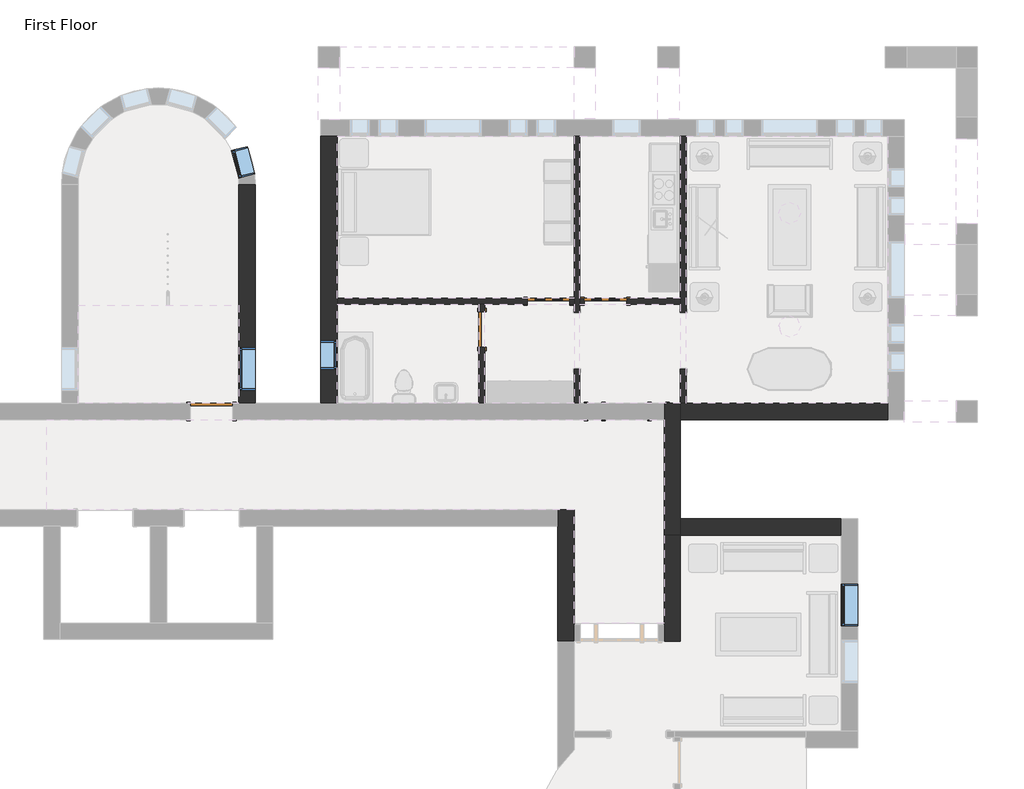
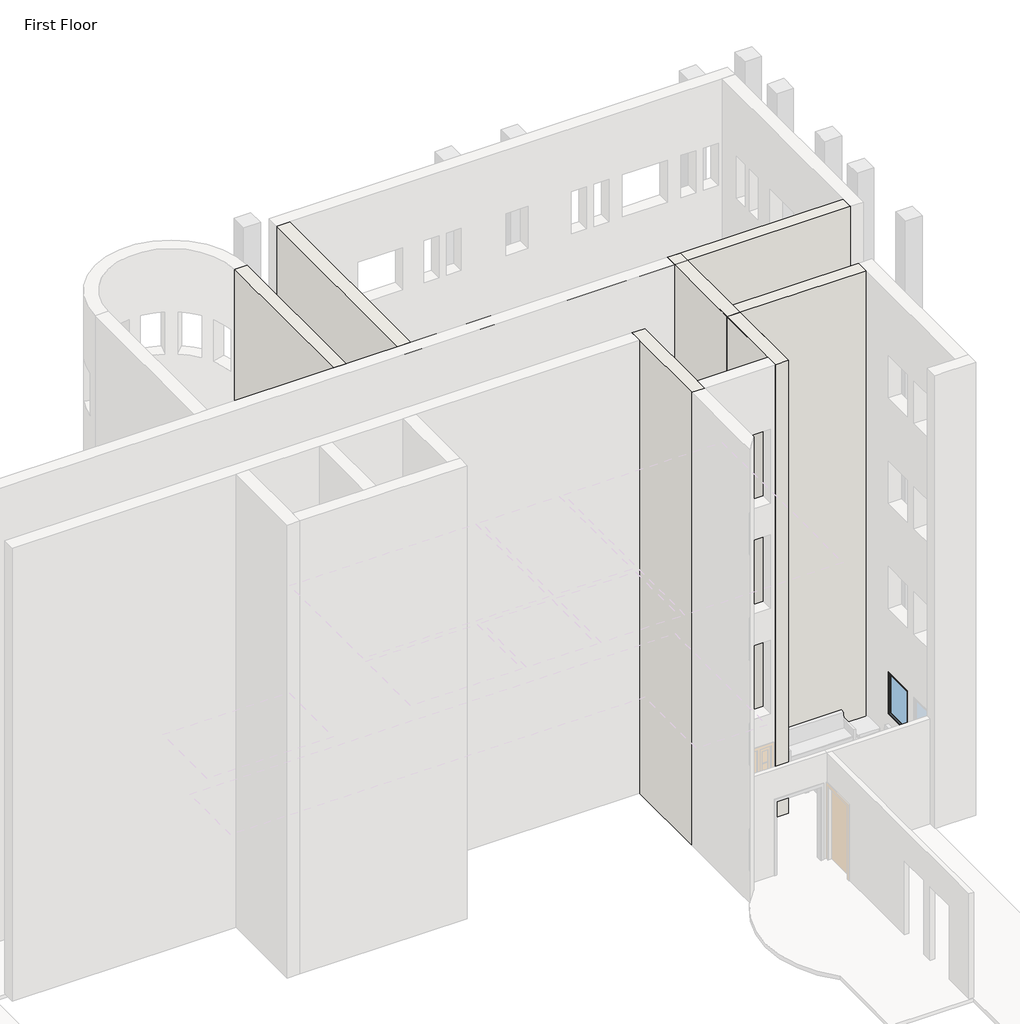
# One storey, part 14 of 21: 12 walls, 5 doors, 4 windows.
"""IFC4 building model written with IfcOpenShell, lengths in millimetres."""

from ifc_helpers import new_model, si_unit, frame, origin, place, context, project, spatial, polyline, outline, extrude, faceted_brep, transform, mapped, element, save
from components import door_829da954, door_2e3b4da2, door_4d6c7550, door_632be17d, door_dba5aa2e, window_60baf983, window_15c49d37, window_0e2fc6ce

model = new_model("IFC4")

# Units and contexts
model_context = context("Model", 3, world=origin())
ifc_project = project(units=[si_unit("LENGTHUNIT", "METRE", prefix="MILLI")], contexts=[model_context])

# Site, building, storey
site = spatial("IfcSite", under=ifc_project)
building = spatial("IfcBuilding", under=site)
storey = spatial("IfcBuildingStorey", under=building, Name="First Floor", Elevation=0.0)

# Doors
placement = place(None, origin())
door_shape = door_829da954(model_context)
element("IfcDoor", 1, ObjectType="Single-Decorative 2 : 36\" x 84\"", at=placement, inside=storey, context=model_context, shape_type="MappedRepresentation", body=[
    mapped(door_shape, transform((-5449.8589563, 6723.5441867, 0.0), x_axis=(-1.0, 0.0, 0.0), y_axis=(0.0, -1.0, 0.0), z_axis=(0.0, 0.0, 1.0))),
])
door_2_shape = door_2e3b4da2(model_context)
element("IfcDoor", 2, ObjectType="Single-Decorative 2 : 36\" x 84\"", at=placement, inside=storey, context=model_context, shape_type="MappedRepresentation", body=[
    mapped(door_2_shape, transform((-6669.0589563, 6723.5441867, 0.0), x_axis=(1.0, 0.0, 0.0), y_axis=(0.0, 1.0, 0.0), z_axis=(0.0, 0.0, 1.0))),
])
door_3_shape = door_4d6c7550(model_context)
element("IfcDoor", 3, ObjectType="Single-Flush : 30\" x 84\"", at=placement, inside=storey, context=model_context, shape_type="MappedRepresentation", body=[
    mapped(door_3_shape, transform((-8105.7464563, 6113.9441867, 0.0), x_axis=(0.0, 1.0, 0.0), y_axis=(-1.0, 0.0, 0.0), z_axis=(0.0, 0.0, 1.0))),
])
door_4_shape = door_632be17d(model_context)
element("IfcDoor", 4, ObjectType="Single-Flush : 36\" x 84\"", at=placement, inside=storey, context=model_context, shape_type="MappedRepresentation", body=[
    mapped(door_4_shape, transform((-13919.1714563, 4350.2316867, 0.0), x_axis=(1.0, 0.0, 0.0), y_axis=(0.0, 1.0, 0.0), z_axis=(0.0, 0.0, 1.0))),
])
door_5_shape = door_dba5aa2e(model_context)
element("IfcDoor", 5, ObjectType="Single-Raised Panel with Sidelights : 36\" x 84\"", at=placement, inside=storey, context=model_context, shape_type="MappedRepresentation", body=[
    mapped(door_5_shape, transform((-4992.6589563, 4350.2316867, 0.0), x_axis=(-1.0, 0.0, 0.0), y_axis=(0.0, -1.0, 0.0), z_axis=(0.0, 0.0, 1.0))),
])

# Walls
element("IfcWall", 6, ObjectType="Exterior - Brick on Mtl. Stud", at=placement, inside=storey, context=model_context, shape_type="Brep", body=[
    faceted_brep([(-5830.8589563, 4526.4441867, 2133.6), (-5830.8589563, 4526.4441867, 0.0), (-5995.9589563, 4526.4441867, 0.0), (-6122.9589563, 4526.4441867, 0.0), (-8042.2464563, 4526.4441867, 0.0), (-8169.2464563, 4526.4441867, 0.0), (-11217.2464563, 4526.4441867, 0.0), (-11569.6714563, 4526.4441867, 0.0), (-11569.6714563, 4526.4441867, 13106.4), (-11217.2464563, 4526.4441867, 13106.4), (622.3285437, 4526.4441867, 13106.4), (622.3285437, 4526.4441867, 0.0), (-3709.9589563, 4526.4441867, 0.0), (-3836.9589563, 4526.4441867, 0.0), (-4154.4589563, 4526.4441867, 0.0), (-4154.4589563, 4526.4441867, 2133.6), (-4154.4589563, 4526.4441867, 9144.0), (-4154.4589563, 4526.4441867, 11277.6), (-5830.8589563, 4526.4441867, 11277.6), (-5830.8589563, 4526.4441867, 9144.0), (-4154.4589563, 4526.4441867, 3048.0), (-4154.4589563, 4526.4441867, 5181.6), (-5830.8589563, 4526.4441867, 5181.6), (-5830.8589563, 4526.4441867, 3048.0), (-4154.4589563, 4526.4441867, 6096.0), (-4154.4589563, 4526.4441867, 8229.6), (-5830.8589563, 4526.4441867, 8229.6), (-5830.8589563, 4526.4441867, 6096.0), (-11569.6714563, 4174.0191867, 0.0), (-5830.8589563, 4174.0191867, 0.0), (-5830.8589563, 4174.0191867, 2133.6), (-4154.4589563, 4174.0191867, 2133.6), (-4154.4589563, 4174.0191867, 0.0), (622.3285437, 4174.0191867, 0.0), (622.3285437, 4174.0191867, 13106.4), (-11569.6714563, 4174.0191867, 13106.4), (-4154.4589563, 4174.0191867, 9144.0), (-5830.8589563, 4174.0191867, 9144.0), (-5830.8589563, 4174.0191867, 11277.6), (-4154.4589563, 4174.0191867, 11277.6), (-4154.4589563, 4174.0191867, 3048.0), (-5830.8589563, 4174.0191867, 3048.0), (-5830.8589563, 4174.0191867, 5181.6), (-4154.4589563, 4174.0191867, 5181.6), (-4154.4589563, 4174.0191867, 6096.0), (-5830.8589563, 4174.0191867, 6096.0), (-5830.8589563, 4174.0191867, 8229.6), (-4154.4589563, 4174.0191867, 8229.6)], [[[0, 1, 2, 3, 4, 5, 6, 7, 8, 9, 10, 11, 12, 13, 14, 15], [16, 17, 18, 19], [20, 21, 22, 23], [24, 25, 26, 27]], [[28, 29, 30, 31, 32, 33, 34, 35], [36, 37, 38, 39], [40, 41, 42, 43], [44, 45, 46, 47]], [[7, 6, 5, 4, 3, 2, 1, 29, 28]], [[14, 13, 12, 11, 33, 32]], [[10, 9, 8, 35, 34]], [[8, 7, 28, 35]], [[11, 10, 34, 33]], [[30, 29, 1, 0]], [[31, 30, 0, 15]], [[32, 31, 15, 14]], [[37, 36, 16, 19]], [[38, 37, 19, 18]], [[39, 38, 18, 17]], [[36, 39, 17, 16]], [[41, 40, 20, 23]], [[42, 41, 23, 22]], [[43, 42, 22, 21]], [[40, 43, 21, 20]], [[45, 44, 24, 27]], [[46, 45, 27, 26]], [[47, 46, 26, 25]], [[44, 47, 25, 24]]]),
])
element("IfcWall", 7, ObjectType="Exterior - Brick on Mtl. Stud", at=placement, inside=storey, context=model_context, shape_type="Brep", body=[
    faceted_brep([(-11217.2464563, 4526.4441867, 0.0), (-11217.2464563, 6660.0441867, 0.0), (-11217.2464563, 6787.0441867, 0.0), (-11217.2464563, 10270.0191867, 0.0), (-11217.2464563, 10270.0191867, 13106.4), (-11217.2464563, 4526.4441867, 13106.4), (-11217.2464563, 5264.6316867, 2133.6), (-11217.2464563, 5874.2316867, 2133.6), (-11217.2464563, 5874.2316867, 914.4), (-11217.2464563, 5264.6316867, 914.4), (-11217.2464563, 5264.6316867, 11277.6), (-11217.2464563, 5874.2316867, 11277.6), (-11217.2464563, 5874.2316867, 10058.4), (-11217.2464563, 5264.6316867, 10058.4), (-11217.2464563, 5264.6316867, 5181.6), (-11217.2464563, 5874.2316867, 5181.6), (-11217.2464563, 5874.2316867, 3962.4), (-11217.2464563, 5264.6316867, 3962.4), (-11217.2464563, 5264.6316867, 8229.6), (-11217.2464563, 5874.2316867, 8229.6), (-11217.2464563, 5874.2316867, 7010.4), (-11217.2464563, 5264.6316867, 7010.4), (-11569.6714563, 4526.4441867, 0.0), (-11569.6714563, 4526.4441867, 13106.4), (-11569.6714563, 10270.0191867, 13106.4), (-11569.6714563, 10270.0191867, 0.0), (-11569.6714563, 5264.6316867, 2133.6), (-11569.6714563, 5264.6316867, 914.4), (-11569.6714563, 5874.2316867, 914.4), (-11569.6714563, 5874.2316867, 2133.6), (-11569.6714563, 5264.6316867, 11277.6), (-11569.6714563, 5264.6316867, 10058.4), (-11569.6714563, 5874.2316867, 10058.4), (-11569.6714563, 5874.2316867, 11277.6), (-11569.6714563, 5264.6316867, 5181.6), (-11569.6714563, 5264.6316867, 3962.4), (-11569.6714563, 5874.2316867, 3962.4), (-11569.6714563, 5874.2316867, 5181.6), (-11569.6714563, 5264.6316867, 8229.6), (-11569.6714563, 5264.6316867, 7010.4), (-11569.6714563, 5874.2316867, 7010.4), (-11569.6714563, 5874.2316867, 8229.6), (-11382.3464563, 4526.4441867, 0.0), (-11382.3464563, 10270.0191867, 0.0)], [[[0, 1, 2, 3, 4, 5], [6, 7, 8, 9], [10, 11, 12, 13], [14, 15, 16, 17], [18, 19, 20, 21]], [[22, 23, 24, 25], [26, 27, 28, 29], [30, 31, 32, 33], [34, 35, 36, 37], [38, 39, 40, 41]], [[5, 4, 24, 23]], [[0, 5, 23, 22, 42]], [[4, 3, 43, 25, 24]], [[42, 22, 25, 43]], [[3, 2, 1, 0, 42, 43]], [[27, 26, 6, 9]], [[28, 27, 9, 8]], [[29, 28, 8, 7]], [[26, 29, 7, 6]], [[31, 30, 10, 13]], [[32, 31, 13, 12]], [[33, 32, 12, 11]], [[30, 33, 11, 10]], [[35, 34, 14, 17]], [[36, 35, 17, 16]], [[37, 36, 16, 15]], [[34, 37, 15, 14]], [[39, 38, 18, 21]], [[40, 39, 21, 20]], [[41, 40, 20, 19]], [[38, 41, 19, 18]]]),
])
element("IfcWall", 8, ObjectType="Exterior - Brick on Mtl. Stud", at=placement, inside=storey, context=model_context, shape_type="SweptSolid", body=[
    extrude(outline(polyline([(4526.4441867, 0.0), (4526.4441867, 13106.4), (9227.0316867, 13106.4), (9227.0316867, 0.0), (4526.4441867, 0.0)]), holes=[polyline([(5721.8316867, 8229.6), (4807.4316867, 8229.6), (4807.4316867, 7010.4), (5721.8316867, 7010.4), (5721.8316867, 8229.6)]), polyline([(5721.8316867, 5181.6), (4807.4316867, 5181.6), (4807.4316867, 3962.4), (5721.8316867, 3962.4), (5721.8316867, 5181.6)]), polyline([(5721.8316867, 11277.6), (4807.4316867, 11277.6), (4807.4316867, 10058.4), (5721.8316867, 10058.4), (5721.8316867, 11277.6)]), polyline([(5721.8316867, 2133.6), (4807.4316867, 2133.6), (4807.4316867, 914.4), (5721.8316867, 914.4), (5721.8316867, 2133.6)])]), frame((-13333.3839563, 0.0, 0.0), z_axis=(1.0, 0.0, 0.0), x_axis=(0.0, 1.0, 0.0)), (0.0, 0.0, 1.0), 352.425),
])
element("IfcWall", 9, ObjectType="Exterior - Brick on Mtl. Stud", at=placement, inside=storey, context=model_context, shape_type="Brep", body=[
    faceted_brep([(-6475.3839563, 2240.4441867, 0.0), (-6475.3839563, 1888.0191867, 0.0), (-6475.3839563, -591.6558133, 0.0), (-6475.3839563, -591.6558133, 13106.4), (-6475.3839563, 1888.0191867, 13106.4), (-6475.3839563, 2240.4441867, 13106.4), (-6122.9589563, 2240.4441867, 0.0), (-6122.9589563, 2240.4441867, 13106.4), (-6122.9589563, -239.2308133, 13106.4), (-6122.9589563, -591.6558133, 13106.4), (-6122.9589563, -591.6558133, 0.0), (-6122.9589563, -239.2308133, 0.0)], [[[0, 1, 2, 3, 4, 5]], [[6, 7, 8, 9, 10, 11]], [[2, 1, 0, 6, 11, 10]], [[5, 4, 3, 9, 8, 7]], [[0, 5, 7, 6]], [[3, 2, 10, 9]]]),
])
element("IfcWall", 10, ObjectType="Exterior - Brick on Mtl. Stud", at=placement, inside=storey, context=model_context, shape_type="Brep", body=[
    faceted_brep([(-3836.9589563, -591.6558133, 0.0), (-3836.9589563, 4526.4441867, 0.0), (-3836.9589563, 4526.4441867, 13106.4), (-3836.9589563, -591.6558133, 13106.4), (-4189.3839563, -591.6558133, 0.0), (-4189.3839563, -591.6558133, 13106.4), (-4189.3839563, -239.2308133, 13106.4), (-4189.3839563, 4174.0191867, 13106.4), (-4189.3839563, 4526.4441867, 13106.4), (-4189.3839563, 4526.4441867, 0.0), (-4189.3839563, 4174.0191867, 0.0), (-4189.3839563, -239.2308133, 0.0)], [[[0, 1, 2, 3]], [[4, 5, 6, 7, 8, 9, 10, 11]], [[1, 0, 4, 11, 10, 9]], [[3, 2, 8, 7, 6, 5]], [[2, 1, 9, 8]], [[0, 3, 5, 4]]]),
])
element("IfcWall", 11, ObjectType="Exterior - Brick on Mtl. Stud", at=placement, inside=storey, context=model_context, shape_type="Brep", body=[
    faceted_brep([(-379.3839563, 2046.7691867, 0.0), (-4189.3839563, 2046.7691867, 0.0), (-4189.3839563, 2046.7691867, 13106.4), (-379.3839563, 2046.7691867, 13106.4), (-379.3839563, 1694.3441867, 0.0), (-379.3839563, 1694.3441867, 13106.4), (-3836.9589563, 1694.3441867, 13106.4), (-4189.3839563, 1694.3441867, 13106.4), (-4189.3839563, 1694.3441867, 0.0), (-3836.9589563, 1694.3441867, 0.0)], [[[0, 1, 2, 3]], [[4, 5, 6, 7, 8, 9]], [[1, 0, 4, 9, 8]], [[3, 2, 7, 6, 5]], [[2, 1, 8, 7]], [[0, 3, 5, 4]]]),
])
element("IfcWall", 12, ObjectType="Exterior - Brick on Mtl. Stud", at=placement, inside=storey, context=model_context, shape_type="Brep", body=[
    faceted_brep([(-4189.3839563, 1694.3441867, 0.0), (-4189.3839563, -239.2308133, 0.0), (-4189.3839563, -591.6558133, 0.0), (-4189.3839563, -591.6558133, 13106.4), (-4189.3839563, -239.2308133, 13106.4), (-4189.3839563, 1694.3441867, 13106.4), (-3836.9589563, 1694.3441867, 0.0), (-3836.9589563, 1694.3441867, 13106.4), (-3836.9589563, -591.6558133, 13106.4), (-3836.9589563, -591.6558133, 0.0)], [[[0, 1, 2, 3, 4, 5]], [[6, 7, 8, 9]], [[2, 1, 0, 6, 9]], [[5, 4, 3, 8, 7]], [[0, 5, 7, 6]], [[3, 2, 9, 8]]]),
])
element("IfcWall", 13, ObjectType="Interior - 5\" Partition (2-hr)", at=placement, inside=storey, context=model_context, shape_type="Brep", body=[
    faceted_brep([(-3836.9589563, 10270.0191867, 0.0), (-3836.9589563, 6787.0441867, 0.0), (-3836.9589563, 6660.0441867, 0.0), (-3836.9589563, 6483.8316867, 0.0), (-3836.9589563, 6483.8316867, 2133.6), (-3836.9589563, 5264.6316867, 2133.6), (-3836.9589563, 5264.6316867, 0.0), (-3836.9589563, 4526.4441867, 0.0), (-3836.9589563, 4526.4441867, 2943.225), (-3836.9589563, 6660.0441867, 2943.225), (-3836.9589563, 6787.0441867, 2943.225), (-3836.9589563, 10270.0191867, 2943.225), (-3709.9589563, 6483.8316867, 2133.6), (-3709.9589563, 6483.8316867, 0.0), (-3709.9589563, 10270.0191867, 0.0), (-3709.9589563, 10270.0191867, 2943.225), (-3709.9589563, 4526.4441867, 2943.225), (-3709.9589563, 4526.4441867, 0.0), (-3709.9589563, 5264.6316867, 0.0), (-3709.9589563, 5264.6316867, 2133.6)], [[[0, 1, 2, 3, 4, 5, 6, 7, 8, 9, 10, 11]], [[12, 13, 14, 15, 16, 17, 18, 19]], [[14, 13, 3, 2, 1, 0]], [[18, 17, 7, 6]], [[11, 10, 9, 8, 16, 15]], [[0, 11, 15, 14]], [[8, 7, 17, 16]], [[6, 5, 19, 18]], [[4, 3, 13, 12]], [[5, 4, 12, 19]]]),
])
element("IfcWall", 14, ObjectType="Interior - 5\" Partition (2-hr)", at=placement, inside=storey, context=model_context, shape_type="Brep", body=[
    faceted_brep([(-6122.9589563, 5264.6316867, 2133.6), (-6122.9589563, 5264.6316867, 0.0), (-6122.9589563, 4526.4441867, 0.0), (-6122.9589563, 4526.4441867, 2943.225), (-6122.9589563, 6660.0441867, 2943.225), (-6122.9589563, 6787.0441867, 2943.225), (-6122.9589563, 10270.0191867, 2943.225), (-6122.9589563, 10270.0191867, 0.0), (-6122.9589563, 6787.0441867, 0.0), (-6122.9589563, 6660.0441867, 0.0), (-6122.9589563, 6483.8316867, 0.0), (-6122.9589563, 6483.8316867, 2133.6), (-5995.9589563, 4526.4441867, 0.0), (-5995.9589563, 5264.6316867, 0.0), (-5995.9589563, 5264.6316867, 2133.6), (-5995.9589563, 6483.8316867, 2133.6), (-5995.9589563, 6483.8316867, 0.0), (-5995.9589563, 6660.0441867, 0.0), (-5995.9589563, 6787.0441867, 0.0), (-5995.9589563, 10270.0191867, 0.0), (-5995.9589563, 10270.0191867, 2943.225), (-5995.9589563, 6787.0441867, 2943.225), (-5995.9589563, 6660.0441867, 2943.225), (-5995.9589563, 4526.4441867, 2943.225)], [[[0, 1, 2, 3, 4, 5, 6, 7, 8, 9, 10, 11]], [[12, 13, 14, 15, 16, 17, 18, 19, 20, 21, 22, 23]], [[2, 1, 13, 12]], [[10, 9, 8, 7, 19, 18, 17, 16]], [[6, 5, 4, 3, 23, 22, 21, 20]], [[7, 6, 20, 19]], [[3, 2, 12, 23]], [[16, 15, 11, 10]], [[14, 13, 1, 0]], [[15, 14, 0, 11]]]),
])
element("IfcWall", 15, ObjectType="Interior - 5\" Partition (2-hr)", at=placement, inside=storey, context=model_context, shape_type="Brep", body=[
    faceted_brep([(-6211.8589563, 6660.0441867, 2133.6), (-6211.8589563, 6660.0441867, 0.0), (-6122.9589563, 6660.0441867, 0.0), (-6122.9589563, 6660.0441867, 2943.225), (-8042.2464563, 6660.0441867, 2943.225), (-8169.2464563, 6660.0441867, 2943.225), (-11217.2464563, 6660.0441867, 2943.225), (-11217.2464563, 6660.0441867, 0.0), (-8169.2464563, 6660.0441867, 0.0), (-8042.2464563, 6660.0441867, 0.0), (-7126.2589563, 6660.0441867, 0.0), (-7126.2589563, 6660.0441867, 2133.6), (-6122.9589563, 6787.0441867, 0.0), (-6211.8589563, 6787.0441867, 0.0), (-6211.8589563, 6787.0441867, 2133.6), (-7126.2589563, 6787.0441867, 2133.6), (-7126.2589563, 6787.0441867, 0.0), (-11217.2464563, 6787.0441867, 0.0), (-11217.2464563, 6787.0441867, 2943.225), (-6122.9589563, 6787.0441867, 2943.225)], [[[0, 1, 2, 3, 4, 5, 6, 7, 8, 9, 10, 11]], [[12, 13, 14, 15, 16, 17, 18, 19]], [[2, 1, 13, 12]], [[10, 9, 8, 7, 17, 16]], [[6, 5, 4, 3, 19, 18]], [[7, 6, 18, 17]], [[3, 2, 12, 19]], [[14, 13, 1, 0]], [[15, 14, 0, 11]], [[16, 15, 11, 10]]]),
])
element("IfcWall", 16, ObjectType="Interior - 5\" Partition (2-hr)", at=placement, inside=storey, context=model_context, shape_type="SweptSolid", body=[
    extrude(outline(polyline([(6660.0441867, 0.0), (6494.9441867, 0.0), (6494.9441867, 2133.6), (5732.9441867, 2133.6), (5732.9441867, 0.0), (4526.4441867, 0.0), (4526.4441867, 2943.225), (6660.0441867, 2943.225), (6660.0441867, 0.0)])), frame((-8169.2464563, 0.0, 0.0), z_axis=(1.0, 0.0, 0.0), x_axis=(0.0, 1.0, 0.0)), (0.0, 0.0, 1.0), 127.0),
])
element("IfcWall", 17, ObjectType="Interior - 5\" Partition (2-hr)", at=placement, inside=storey, context=model_context, shape_type="SweptSolid", body=[
    extrude(outline(polyline([(0.0, -5995.9589563), (0.0, -5907.0589563), (2133.6, -5907.0589563), (2133.6, -4992.6589563), (0.0, -4992.6589563), (0.0, -3836.9589563), (2943.225, -3836.9589563), (2943.225, -5995.9589563), (0.0, -5995.9589563)])), frame((0.0, 6660.0441867, 0.0), z_axis=(0.0, 1.0, 0.0), x_axis=(0.0, 0.0, 1.0)), (0.0, 0.0, 1.0), 127.0),
])

# Windows
window_shape = window_60baf983(model_context)
element("IfcWindow", 18, ObjectType="Fixed : 24\" x 48\"", at=placement, inside=storey, context=model_context, shape_type="MappedRepresentation", body=[
    mapped(window_shape, transform((-11393.4589563, 5531.3316867, 0.0), x_axis=(0.0, -1.0, 0.0), y_axis=(1.0, 0.0, 0.0), z_axis=(0.0, 0.0, 1.0))),
])
element("IfcWindow", 19, ObjectType="Fixed : 24\" x 48\"", at=placement, inside=storey, context=model_context, shape_type="MappedRepresentation", body=[
    mapped(window_shape, transform((-13252.0309309, 9745.5617412, 0.0), x_axis=(-0.25587418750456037, 0.9667100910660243, 0.0), y_axis=(-0.9667100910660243, -0.25587418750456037, 0.0), z_axis=(0.0, 0.0, 1.0))),
])
window_2_shape = window_15c49d37(model_context)
element("IfcWindow", 20, ObjectType="Fixed : 36\" x 48\"", at=placement, inside=storey, context=model_context, shape_type="MappedRepresentation", body=[
    mapped(window_2_shape, transform((-13157.1714563, 5302.7316867, 0.0), x_axis=(0.0, 1.0, 0.0), y_axis=(-1.0, 0.0, 0.0), z_axis=(0.0, 0.0, 1.0))),
])
window_3_shape = window_0e2fc6ce(model_context)
element("IfcWindow", 21, ObjectType="Fixed : 36\" x 48\"", at=placement, inside=storey, context=model_context, shape_type="MappedRepresentation", body=[
    mapped(window_3_shape, transform((-203.1714563, 156.0566867, 0.0), x_axis=(0.0, -1.0, 0.0), y_axis=(1.0, 0.0, 0.0), z_axis=(0.0, 0.0, 1.0))),
])

save(model, "model.ifc")
